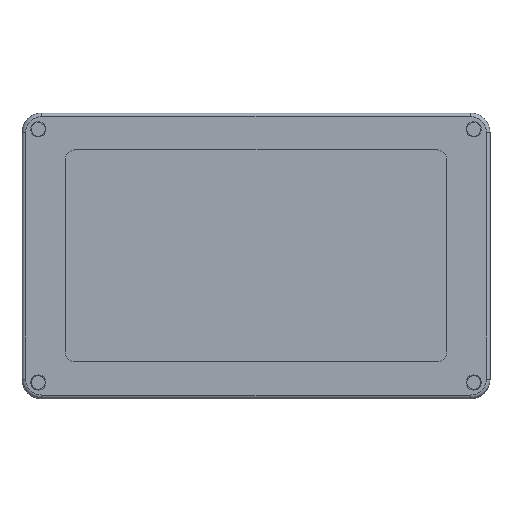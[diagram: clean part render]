
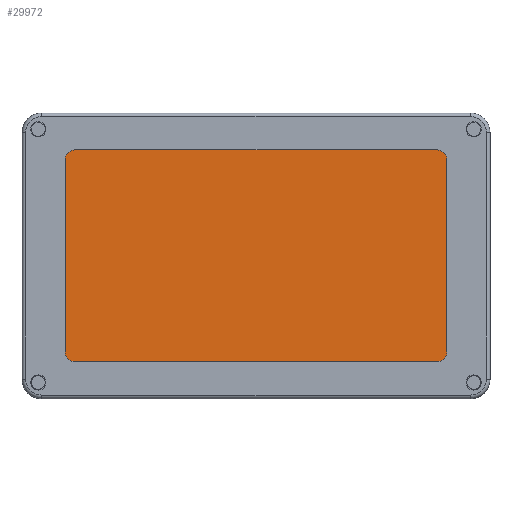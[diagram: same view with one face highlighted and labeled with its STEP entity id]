
A CAD part, top view. The second image highlights one B-rep face of the part: STEP entity #29972.
In plain terms, the highlighted planar face has unit normal (0, 0, 1).
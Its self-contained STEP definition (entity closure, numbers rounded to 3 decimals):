
#29658 = VERTEX_POINT('',#29659);
#29659 = CARTESIAN_POINT('',(0.,0.,6.));
#29666 = PLANE('',#29667);
#29667 = AXIS2_PLACEMENT_3D('',#29668,#29669,#29670);
#29668 = CARTESIAN_POINT('',(0.,0.,0.));
#29669 = DIRECTION('',(1.,0.,-0.));
#29670 = DIRECTION('',(0.,0.,1.));
#29678 = PLANE('',#29679);
#29679 = AXIS2_PLACEMENT_3D('',#29680,#29681,#29682);
#29680 = CARTESIAN_POINT('',(0.,0.,0.));
#29681 = DIRECTION('',(-0.,1.,0.));
#29682 = DIRECTION('',(0.,0.,1.));
#29719 = VERTEX_POINT('',#29720);
#29720 = CARTESIAN_POINT('',(0.,100.,6.));
#29734 = PLANE('',#29735);
#29735 = AXIS2_PLACEMENT_3D('',#29736,#29737,#29738);
#29736 = CARTESIAN_POINT('',(0.,100.,0.));
#29737 = DIRECTION('',(-0.,1.,0.));
#29738 = DIRECTION('',(0.,0.,1.));
#29746 = EDGE_CURVE('',#29658,#29719,#29747,.T.);
#29747 = SURFACE_CURVE('',#29748,(#29752,#29759),.PCURVE_S1.);
#29748 = LINE('',#29749,#29750);
#29749 = CARTESIAN_POINT('',(0.,0.,6.));
#29750 = VECTOR('',#29751,1.);
#29751 = DIRECTION('',(-0.,1.,0.));
#29752 = PCURVE('',#29666,#29753);
#29753 = DEFINITIONAL_REPRESENTATION('',(#29754),#29758);
#29754 = LINE('',#29755,#29756);
#29755 = CARTESIAN_POINT('',(6.,0.));
#29756 = VECTOR('',#29757,1.);
#29757 = DIRECTION('',(0.,-1.));
#29758 = ( GEOMETRIC_REPRESENTATION_CONTEXT(2) 
PARAMETRIC_REPRESENTATION_CONTEXT() REPRESENTATION_CONTEXT('2D SPACE',''
  ) );
#29759 = PCURVE('',#29760,#29765);
#29760 = PLANE('',#29761);
#29761 = AXIS2_PLACEMENT_3D('',#29762,#29763,#29764);
#29762 = CARTESIAN_POINT('',(0.,0.,6.));
#29763 = DIRECTION('',(0.,0.,1.));
#29764 = DIRECTION('',(1.,0.,-0.));
#29765 = DEFINITIONAL_REPRESENTATION('',(#29766),#29770);
#29766 = LINE('',#29767,#29768);
#29767 = CARTESIAN_POINT('',(0.,0.));
#29768 = VECTOR('',#29769,1.);
#29769 = DIRECTION('',(0.,1.));
#29770 = ( GEOMETRIC_REPRESENTATION_CONTEXT(2) 
PARAMETRIC_REPRESENTATION_CONTEXT() REPRESENTATION_CONTEXT('2D SPACE',''
  ) );
#29778 = VERTEX_POINT('',#29779);
#29779 = CARTESIAN_POINT('',(164.9,0.,6.));
#29786 = PLANE('',#29787);
#29787 = AXIS2_PLACEMENT_3D('',#29788,#29789,#29790);
#29788 = CARTESIAN_POINT('',(164.9,0.,0.));
#29789 = DIRECTION('',(1.,0.,-0.));
#29790 = DIRECTION('',(0.,0.,1.));
#29829 = VERTEX_POINT('',#29830);
#29830 = CARTESIAN_POINT('',(164.9,100.,6.));
#29851 = EDGE_CURVE('',#29778,#29829,#29852,.T.);
#29852 = SURFACE_CURVE('',#29853,(#29857,#29864),.PCURVE_S1.);
#29853 = LINE('',#29854,#29855);
#29854 = CARTESIAN_POINT('',(164.9,0.,6.));
#29855 = VECTOR('',#29856,1.);
#29856 = DIRECTION('',(-0.,1.,0.));
#29857 = PCURVE('',#29786,#29858);
#29858 = DEFINITIONAL_REPRESENTATION('',(#29859),#29863);
#29859 = LINE('',#29860,#29861);
#29860 = CARTESIAN_POINT('',(6.,0.));
#29861 = VECTOR('',#29862,1.);
#29862 = DIRECTION('',(0.,-1.));
#29863 = ( GEOMETRIC_REPRESENTATION_CONTEXT(2) 
PARAMETRIC_REPRESENTATION_CONTEXT() REPRESENTATION_CONTEXT('2D SPACE',''
  ) );
#29864 = PCURVE('',#29760,#29865);
#29865 = DEFINITIONAL_REPRESENTATION('',(#29866),#29870);
#29866 = LINE('',#29867,#29868);
#29867 = CARTESIAN_POINT('',(164.9,0.));
#29868 = VECTOR('',#29869,1.);
#29869 = DIRECTION('',(0.,1.));
#29870 = ( GEOMETRIC_REPRESENTATION_CONTEXT(2) 
PARAMETRIC_REPRESENTATION_CONTEXT() REPRESENTATION_CONTEXT('2D SPACE',''
  ) );
#29897 = EDGE_CURVE('',#29658,#29778,#29898,.T.);
#29898 = SURFACE_CURVE('',#29899,(#29903,#29910),.PCURVE_S1.);
#29899 = LINE('',#29900,#29901);
#29900 = CARTESIAN_POINT('',(0.,0.,6.));
#29901 = VECTOR('',#29902,1.);
#29902 = DIRECTION('',(1.,0.,-0.));
#29903 = PCURVE('',#29678,#29904);
#29904 = DEFINITIONAL_REPRESENTATION('',(#29905),#29909);
#29905 = LINE('',#29906,#29907);
#29906 = CARTESIAN_POINT('',(6.,0.));
#29907 = VECTOR('',#29908,1.);
#29908 = DIRECTION('',(0.,1.));
#29909 = ( GEOMETRIC_REPRESENTATION_CONTEXT(2) 
PARAMETRIC_REPRESENTATION_CONTEXT() REPRESENTATION_CONTEXT('2D SPACE',''
  ) );
#29910 = PCURVE('',#29760,#29911);
#29911 = DEFINITIONAL_REPRESENTATION('',(#29912),#29916);
#29912 = LINE('',#29913,#29914);
#29913 = CARTESIAN_POINT('',(0.,0.));
#29914 = VECTOR('',#29915,1.);
#29915 = DIRECTION('',(1.,0.));
#29916 = ( GEOMETRIC_REPRESENTATION_CONTEXT(2) 
PARAMETRIC_REPRESENTATION_CONTEXT() REPRESENTATION_CONTEXT('2D SPACE',''
  ) );
#29944 = EDGE_CURVE('',#29719,#29829,#29945,.T.);
#29945 = SURFACE_CURVE('',#29946,(#29950,#29957),.PCURVE_S1.);
#29946 = LINE('',#29947,#29948);
#29947 = CARTESIAN_POINT('',(0.,100.,6.));
#29948 = VECTOR('',#29949,1.);
#29949 = DIRECTION('',(1.,0.,-0.));
#29950 = PCURVE('',#29734,#29951);
#29951 = DEFINITIONAL_REPRESENTATION('',(#29952),#29956);
#29952 = LINE('',#29953,#29954);
#29953 = CARTESIAN_POINT('',(6.,0.));
#29954 = VECTOR('',#29955,1.);
#29955 = DIRECTION('',(0.,1.));
#29956 = ( GEOMETRIC_REPRESENTATION_CONTEXT(2) 
PARAMETRIC_REPRESENTATION_CONTEXT() REPRESENTATION_CONTEXT('2D SPACE',''
  ) );
#29957 = PCURVE('',#29760,#29958);
#29958 = DEFINITIONAL_REPRESENTATION('',(#29959),#29963);
#29959 = LINE('',#29960,#29961);
#29960 = CARTESIAN_POINT('',(0.,100.));
#29961 = VECTOR('',#29962,1.);
#29962 = DIRECTION('',(1.,0.));
#29963 = ( GEOMETRIC_REPRESENTATION_CONTEXT(2) 
PARAMETRIC_REPRESENTATION_CONTEXT() REPRESENTATION_CONTEXT('2D SPACE',''
  ) );
#29972 = ADVANCED_FACE('',(#29973),#29760,.T.);
#29973 = FACE_BOUND('',#29974,.T.);
#29974 = EDGE_LOOP('',(#29975,#29976,#29977,#29978));
#29975 = ORIENTED_EDGE('',*,*,#29746,.F.);
#29976 = ORIENTED_EDGE('',*,*,#29897,.T.);
#29977 = ORIENTED_EDGE('',*,*,#29851,.T.);
#29978 = ORIENTED_EDGE('',*,*,#29944,.F.);
